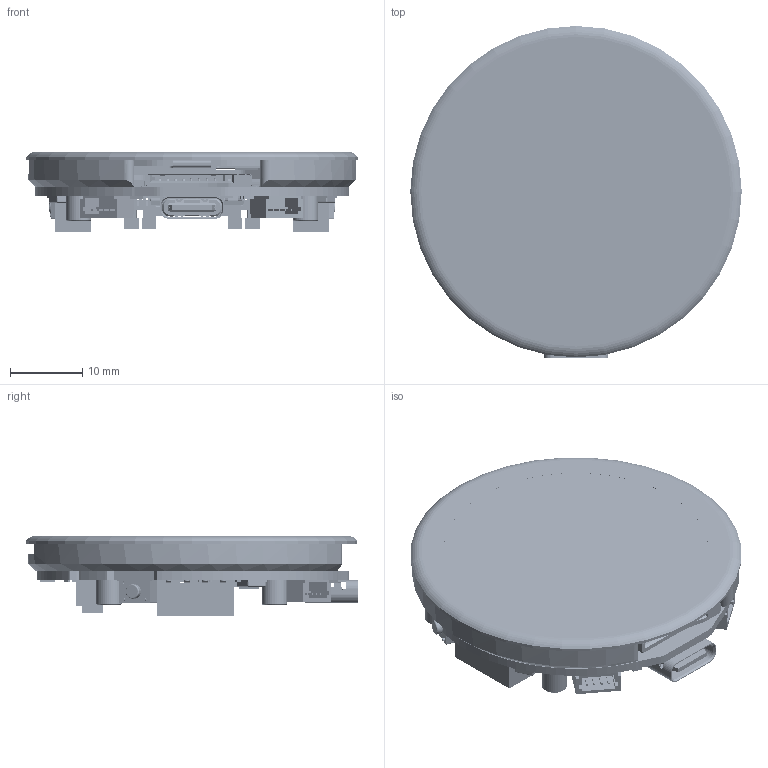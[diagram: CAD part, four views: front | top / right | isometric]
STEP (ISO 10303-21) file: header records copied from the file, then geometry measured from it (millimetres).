
FILE_DESCRIPTION((''),'2;1');
FILE_NAME('ESP32-C6-TOUCH-AMOLED-1_43_ASM','2025-07-04T17:49:23',('xiaojisheng'),(''),'CREO PARAMETRIC BY PTC INC, 2021063','CREO PARAMETRIC BY PTC INC, 2021063','');
FILE_SCHEMA(('CONFIG_CONTROL_DESIGN','SHAPE_APPEARANCE_LAYERS_GROUPS'));
Products named in the file (304): BOARD; USER_LIBRARY-0201_0603M__CAP_1; USER_LIBRARY-0201_0603M__CAP_2; USER_LIBRARY-0201_0603M__CAP_3; USER_LIBRARY-0201_0603M__CAP_ASM; C40_ASM; USER_LIBRARY-RES_0603-0201_1; USER_LIBRARY-RES_0603-0201_2; USER_LIBRARY-RES_0603-0201_3; USER_LIBRARY-RES_0603-0201_4; USER_LIBRARY-RES_0603-0201_ASM; R67_ASM; R66_ASM; R59_ASM; R58_ASM; R57_ASM; R56_ASM; R49_ASM; R48_ASM; C50_ASM; C47_ASM; C46_ASM; C45_ASM; C44_ASM; C43_ASM; C42_ASM; EXTRUDED-33499; 692505744_ASM; U13_ASM; C3_ASM; EXTRUDED-49664; 692506000_ASM; Y2_ASM; EXTRUDED-50059; 692506384_ASM; Y1_ASM; EXTRUDED-50454; 916108944_ASM; U11_ASM; USER_LIBRARY-WQFN-20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
Assembly tree (505 placements, depth 9):
  ESP32-C6-TOUCH-AMOLED-1_43_ASM
    ESP32-C6-TOUCH-LCD-1_43-PCBA_ASM
      ESP32-C6-TOUCH-AMOLED-1_43-PCB1_ASM
        PCB_ASM
          BOARD
          C40_ASM
            USER_LIBRARY-0201_0603M__CAP_ASM
              USER_LIBRARY-0201_0603M__CAP_1
              USER_LIBRARY-0201_0603M__CAP_2
              USER_LIBRARY-0201_0603M__CAP_3
          R67_ASM
            USER_LIBRARY-RES_0603-0201_ASM
              USER_LIBRARY-RES_0603-0201_1
              USER_LIBRARY-RES_0603-0201_2
              USER_LIBRARY-RES_0603-0201_3
              USER_LIBRARY-RES_0603-0201_4
          R66_ASM
            USER_LIBRARY-RES_0603-0201_ASM
              USER_LIBRARY-RES_0603-0201_1
              USER_LIBRARY-RES_0603-0201_2
              USER_LIBRARY-RES_0603-0201_3
              USER_LIBRARY-RES_0603-0201_4
          R59_ASM
            USER_LIBRARY-RES_0603-0201_ASM
              USER_LIBRARY-RES_0603-0201_1
              USER_LIBRARY-RES_0603-0201_2
              USER_LIBRARY-RES_0603-0201_3
              USER_LIBRARY-RES_0603-0201_4
          R58_ASM
            USER_LIBRARY-RES_0603-0201_ASM
              USER_LIBRARY-RES_0603-0201_1
              USER_LIBRARY-RES_0603-0201_2
              USER_LIBRARY-RES_0603-0201_3
              USER_LIBRARY-RES_0603-0201_4
          R57_ASM
            USER_LIBRARY-RES_0603-0201_ASM
              USER_LIBRARY-RES_0603-0201_1
              USER_LIBRARY-RES_0603-0201_2
              USER_LIBRARY-RES_0603-0201_3
              USER_LIBRARY-RES_0603-0201_4
          R56_ASM
            USER_LIBRARY-RES_0603-0201_ASM
              USER_LIBRARY-RES_0603-0201_1
              USER_LIBRARY-RES_0603-0201_2
              USER_LIBRARY-RES_0603-0201_3
              USER_LIBRARY-RES_0603-0201_4
          R49_ASM
            USER_LIBRARY-RES_0603-0201_ASM
              USER_LIBRARY-RES_0603-0201_1
              USER_LIBRARY-RES_0603-0201_2
              USER_LIBRARY-RES_0603-0201_3
              USER_LIBRARY-RES_0603-0201_4
          R48_ASM
            USER_LIBRARY-RES_0603-0201_ASM
              USER_LIBRARY-RES_0603-0201_1
              USER_LIBRARY-RES_0603-0201_2
              USER_LIBRARY-RES_0603-0201_3
              USER_LIBRARY-RES_0603-0201_4
          C50_ASM
            USER_LIBRARY-0201_0603M__CAP_ASM
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Bounding box: 46 x 46.07 x 11.2 mm (x, y, z)
Volume: 8044.1 mm3; surface area: 17165.9 mm2
Topology: 677 solids, 690 shells, 28672 faces, 74252 edges, 47702 vertices
Faces by surface type: plane 16747, extrusion 7523, cylinder 3351, sphere 936, cone 62, bspline 36, torus 17
Entity records: 254240 total; most frequent: CARTESIAN_POINT 57903, ORIENTED_EDGE 30126, DIRECTION 28628, EDGE_CURVE 15082, VECTOR 12464, PRESENTATION_STYLE_ASSIGNMENT 12039, LINE 11998, STYLED_ITEM 11216
